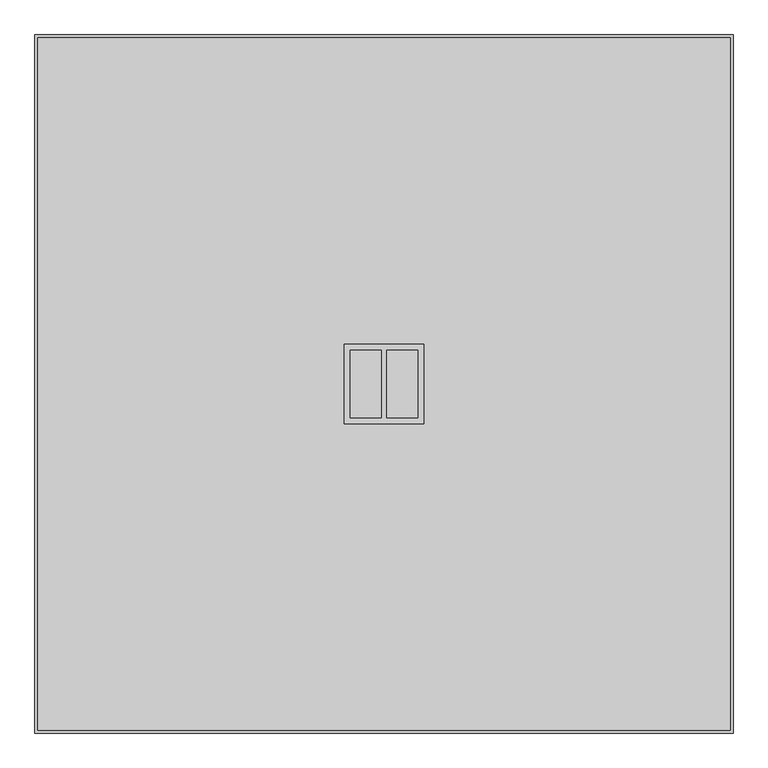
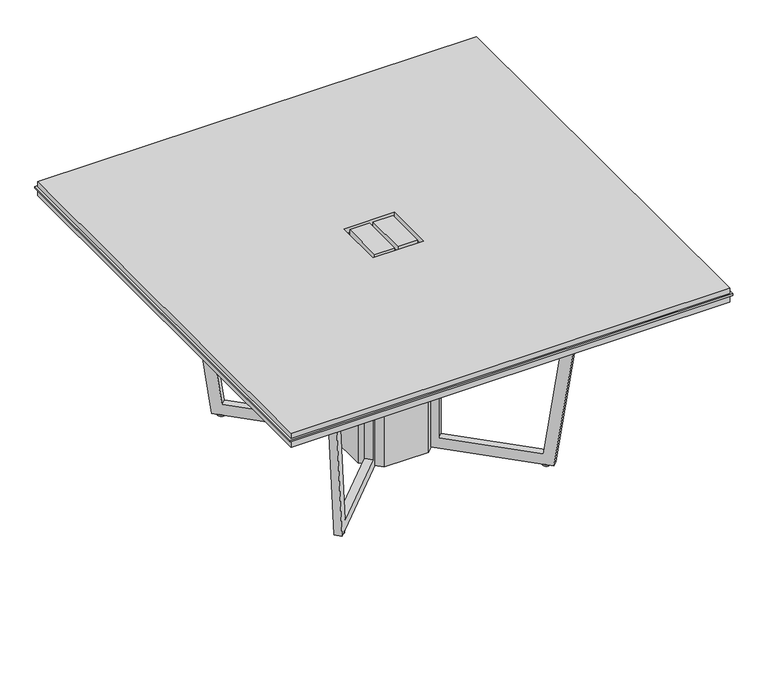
"""IFC4 building model written with IfcOpenShell, lengths in millimetres: furniture geometry, Knoll_Datesweiser_Tables_Meeting_Highline_Square : 60W Caesartone WireMgmt."""

from ifc_helpers import new_model, si_unit, point, frame, frame_2d, origin, origin_with_axes, place, context, project, spatial, polyline, circle_curve, trimmed, segment, composite_curve, outline, extrude, faceted_brep, source, transform, mapped, element, save


def furniture_0d6a90f8(model_context):
    return source(origin(), model_context, "Body", "SolidModel", [
        extrude(outline(polyline([(762.0, 762.0), (762.0, -762.0), (-762.0, -762.0), (-762.0, 762.0), (762.0, 762.0)])), frame((0.0, 0.0, 698.5), z_axis=(0.0, 0.0, 1.0), x_axis=(1.0, 0.0, 0.0)), (0.0, 0.0, 1.0), 25.4),
        extrude(outline(polyline([(762.0, 762.0), (762.0, -762.0), (-762.0, -762.0), (-762.0, 762.0), (762.0, 762.0)]), holes=[polyline([(-87.3125, -87.3125), (87.3125, -87.3125), (87.3125, 87.3125), (-87.3125, 87.3125), (-87.3125, -87.3125)])]), frame((0.0, 0.0, 730.25), z_axis=(0.0, 0.0, 1.0), x_axis=(1.0, 0.0, 0.0)), (0.0, 0.0, 1.0), 19.05),
        extrude(outline(polyline([(6.35, -74.6125), (6.35, 74.6125), (74.6125, 74.6125), (74.6125, -74.6125), (6.35, -74.6125)])), frame((0.0, 0.0, 730.25), z_axis=(0.0, 0.0, 1.0), x_axis=(1.0, 0.0, 0.0)), (0.0, 0.0, 1.0), 19.05),
        extrude(outline(polyline([(-6.35, 74.6125), (-6.35, -74.6125), (-74.6125, -74.6125), (-74.6125, 74.6125), (-6.35, 74.6125)])), frame((0.0, 0.0, 730.25), z_axis=(0.0, 0.0, 1.0), x_axis=(1.0, 0.0, 0.0)), (0.0, 0.0, 1.0), 19.05),
        extrude(outline(polyline([(768.35, 768.35), (768.35, -768.35), (-768.35, -768.35), (-768.35, 768.35), (768.35, 768.35)]), holes=[polyline([(-87.3125, -87.3125), (87.3125, -87.3125), (87.3125, 87.3125), (-87.3125, 87.3125), (-87.3125, -87.3125)])]), frame((0.0, 0.0, 723.9), z_axis=(0.0, 0.0, 1.0), x_axis=(1.0, 0.0, 0.0)), (0.0, 0.0, 1.0), 6.35),
        extrude(outline(polyline([(6.35, -74.6125), (6.35, 74.6125), (74.6125, 74.6125), (74.6125, -74.6125), (6.35, -74.6125)])), frame((0.0, 0.0, 723.9), z_axis=(0.0, 0.0, 1.0), x_axis=(1.0, 0.0, 0.0)), (0.0, 0.0, 1.0), 6.35),
        extrude(outline(polyline([(-6.35, 74.6125), (-6.35, -74.6125), (-74.6125, -74.6125), (-74.6125, 74.6125), (-6.35, 74.6125)])), frame((0.0, 0.0, 723.9), z_axis=(0.0, 0.0, 1.0), x_axis=(1.0, 0.0, 0.0)), (0.0, 0.0, 1.0), 6.35),
        extrude(outline(composite_curve([segment(trimmed(circle_curve(frame_2d((-357.9481367, -357.9481367)), 12.7), [point((-345.2481367, -357.9481367))], [point((-370.6481367, -357.9481367))], False, "CARTESIAN"), True, "CONTINUOUS"), segment(trimmed(circle_curve(frame_2d((-357.9481367, -357.9481367)), 12.7), [point((-370.6481367, -357.9481367))], [point((-345.2481367, -357.9481367))], False, "CARTESIAN"), True, "CONTINUOUS")], self_intersect=False)), origin_with_axes(), (0.0, 0.0, 1.0), 5.9867797),
        extrude(outline(composite_curve([segment(trimmed(circle_curve(frame_2d((-357.9481367, 357.9481367)), 12.7), [point((-345.2481367, 357.9481367))], [point((-370.6481367, 357.9481367))], False, "CARTESIAN"), True, "CONTINUOUS"), segment(trimmed(circle_curve(frame_2d((-357.9481367, 357.9481367)), 12.7), [point((-370.6481367, 357.9481367))], [point((-345.2481367, 357.9481367))], False, "CARTESIAN"), True, "CONTINUOUS")], self_intersect=False)), origin_with_axes(), (0.0, 0.0, 1.0), 5.9867797),
        extrude(outline(composite_curve([segment(trimmed(circle_curve(frame_2d((357.9481367, -357.9481367)), 12.7), [point((370.6481367, -357.9481367))], [point((345.2481367, -357.9481367))], False, "CARTESIAN"), True, "CONTINUOUS"), segment(trimmed(circle_curve(frame_2d((357.9481367, -357.9481367)), 12.7), [point((345.2481367, -357.9481367))], [point((370.6481367, -357.9481367))], False, "CARTESIAN"), True, "CONTINUOUS")], self_intersect=False)), origin_with_axes(), (0.0, 0.0, 1.0), 5.9867797),
        extrude(outline(composite_curve([segment(trimmed(circle_curve(frame_2d((357.9481367, 357.9481367)), 12.7), [point((370.6481367, 357.9481367))], [point((345.2481367, 357.9481367))], False, "CARTESIAN"), True, "CONTINUOUS"), segment(trimmed(circle_curve(frame_2d((357.9481367, 357.9481367)), 12.7), [point((345.2481367, 357.9481367))], [point((370.6481367, 357.9481367))], False, "CARTESIAN"), True, "CONTINUOUS")], self_intersect=False)), origin_with_axes(), (0.0, 0.0, 1.0), 5.9867797),
        faceted_brep([(-105.5180417, 87.5575295, 698.5000242), (-132.4542329, 114.4937206, 698.5000242), (-132.4542329, 114.4937206, 44.0867803), (-362.731756, 344.7712438, 44.0867803), (-427.7656237, 409.8051114, 698.5000242), (-454.9711667, 437.0106545, 698.5000242), (-386.1246404, 368.1641282, 5.7213276), (-115.3405838, 97.3800716, 6.2173274), (-115.3405838, 97.3800716, 679.2551774), (-105.5179146, 87.5574023, 679.2551774), (368.1641282, -386.1246404, 5.7213276), (437.0106545, -454.9711667, 698.5000242), (409.8051114, -427.7656237, 698.5000242), (344.7712438, -362.731756, 44.0867803), (114.4937206, -132.4542329, 44.0867803), (114.4937206, -132.4542329, 698.5000242), (87.5575295, -105.5180417, 698.5000242), (87.5574023, -105.5179146, 679.2551774), (97.3800716, -115.3405838, 679.2551774), (97.3800716, -115.3405838, 6.2173274), (-368.1641282, 386.1246404, 5.7213276), (-437.0106545, 454.9711667, 698.5000242), (-409.8051114, 427.7656237, 698.5000242), (-344.7712438, 362.731756, 44.0867803), (-114.4937206, 132.4542329, 44.0867803), (-114.4937206, 132.4542329, 698.5000242), (-87.5575295, 105.5180417, 698.5000242), (-87.5574023, 105.5179146, 679.2551774), (-97.3800759, 115.3405882, 679.2551774), (-97.3800759, 115.3405882, 6.2173274), (105.5180417, -87.5575295, 698.5000242), (132.4542329, -114.4937206, 698.5000242), (132.4542329, -114.4937206, 44.0867803), (362.731756, -344.7712438, 44.0867803), (427.7656237, -409.8051114, 698.5000242), (454.9711667, -437.0106545, 698.5000242), (386.1246404, -368.1641282, 5.7213276), (115.3405882, -97.3800759, 6.2173274), (115.3405882, -97.3800759, 679.2551774), (105.5179146, -87.5574023, 679.2551774), (-134.8689207, 77.8517251, 679.2551774), (-134.8689207, -77.8517528, 679.2551774), (-77.8517251, -134.8689207, 679.2551774), (77.8517251, -134.8689207, 679.2551774), (134.8689207, -77.8517528, 679.2551774), (134.8689207, 77.8517251, 679.2551774), (77.8517528, 134.8689207, 679.2551774), (-77.8517528, 134.8689207, 679.2551774), (-134.8689207, 77.8517251, 5.8810183), (-77.8517528, 134.8689207, 5.8810183), (77.8517528, 134.8689207, 5.8810183), (134.8689207, 77.8517251, 5.8810183), (134.8689207, -77.8517528, 5.8810183), (77.8517251, -134.8689207, 5.8810183), (-77.8517251, -134.8689207, 5.8810183), (-134.8689207, -77.8517528, 5.8810183)], [[[0, 1, 2, 3, 4, 5, 6, 7, 8, 9]], [[10, 11, 12, 13, 14, 15, 16, 17, 18, 19]], [[20, 21, 22, 23, 24, 25, 26, 27, 28, 29]], [[30, 31, 32, 33, 34, 35, 36, 37, 38, 39]], [[3, 2, 24, 23]], [[4, 3, 23, 22]], [[5, 4, 22, 21]], [[6, 5, 21, 20]], [[6, 20, 29, 7]], [[26, 0, 9, 27]], [[1, 0, 26, 25]], [[2, 1, 25, 24]], [[36, 10, 19, 37]], [[11, 10, 36, 35]], [[12, 11, 35, 34]], [[13, 12, 34, 33]], [[14, 13, 33, 32]], [[15, 14, 32, 31]], [[16, 15, 31, 30]], [[16, 30, 39, 17]], [[40, 41, 42, 43, 18, 17, 39, 38, 44, 45, 46, 47, 28, 27, 9, 8]], [[48, 49, 50, 51, 52, 53, 54, 55]], [[41, 40, 48, 55]], [[42, 41, 55, 54]], [[43, 42, 54, 53]], [[53, 52, 44, 38, 37, 19, 18, 43]], [[45, 44, 52, 51]], [[46, 45, 51, 50]], [[47, 46, 50, 49]], [[49, 48, 40, 8, 7, 29, 28, 47]]]),
        extrude(outline(polyline([(687.3294598, 0.0), (687.8397529, -396.8441293), (-4.9398532, -494.2013488), (-4.9394938, -455.7269008), (649.4746093, -363.7612365), (649.4776515, -38.0996402), (-4.9355924, -38.0935268), (-4.9352365, 0.0), (687.3294598, 0.0)])), frame((105.5180091, 87.5574969, 693.5647877), z_axis=(-0.7071067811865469, 0.7071067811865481, 0.0), x_axis=(-6.605612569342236e-06, -6.605612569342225e-06, -0.9999999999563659)), (0.0, 0.0, 1.0), 25.4),
        extrude(outline(polyline([(687.3320105, 273.0371574), (-4.9326857, 273.0500913), (-4.9323299, 311.1436182), (649.480914, 311.1375048), (649.4839562, 636.7991012), (-4.9284285, 728.7769922), (-4.928069, 767.2514401), (687.849718, 669.8812771), (687.3320105, 273.0371574)])), frame((105.5180091, 87.5574969, 693.5647877), z_axis=(-0.7071067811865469, 0.7071067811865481, 0.0), x_axis=(-6.605612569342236e-06, -6.605612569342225e-06, -0.9999999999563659)), (0.0, 0.0, 1.0), 25.4),
    ])


if __name__ == "__main__":
    model = new_model("IFC4")
    model_context = context("Model", 3, world=origin())
    ifc_project = project(units=[si_unit("LENGTHUNIT", "METRE", prefix="MILLI")], contexts=[model_context])
    site = spatial("IfcSite", under=ifc_project)
    building = spatial("IfcBuilding", under=site)
    placement = place(None, origin())
    furniture_shape = furniture_0d6a90f8(model_context)
    element("IfcFurniture", 1, ObjectType="Knoll_Datesweiser_Tables_Meeting_Highline_Square : 60W Caesartone WireMgmt", at=placement, inside=building, context=model_context, shape_type="MappedRepresentation", body=[
        mapped(furniture_shape, transform((0.0, 0.0, 0.0), x_axis=(1.0, 0.0, 0.0), y_axis=(0.0, 1.0, 0.0), z_axis=(0.0, 0.0, 1.0))),
    ])
    save(model, "model.ifc")
